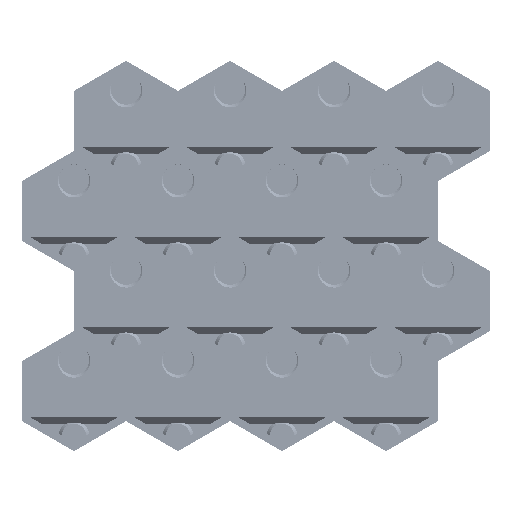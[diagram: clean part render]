
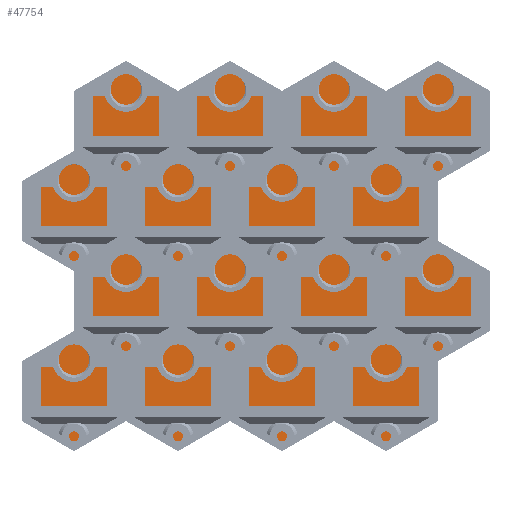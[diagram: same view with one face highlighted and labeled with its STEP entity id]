
A CAD part, left-side view. The second image highlights one B-rep face of the part: STEP entity #47754.
In plain terms, the highlighted planar face has unit normal (-1, 0, 0).
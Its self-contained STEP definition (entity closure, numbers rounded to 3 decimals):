
#1348=PLANE('',#50601);
#3409=FACE_OUTER_BOUND('',#6126,.T.);
#6126=EDGE_LOOP('',(#36761,#36762,#36763,#36764,#36765,#36766,#36767,#36768,
#36769,#36770,#36771,#36772,#36773,#36774,#36775,#36776,#36777,#36778,#36779,
#36780,#36781,#36782,#36783,#36784,#36785,#36786,#36787,#36788,#36789,#36790));
#11603=LINE('',#88824,#16742);
#11607=LINE('',#88832,#16746);
#11610=LINE('',#88838,#16749);
#11613=LINE('',#88844,#16752);
#11616=LINE('',#88850,#16755);
#11619=LINE('',#88856,#16758);
#11622=LINE('',#88862,#16761);
#11625=LINE('',#88868,#16764);
#11628=LINE('',#88874,#16767);
#11631=LINE('',#88880,#16770);
#11634=LINE('',#88886,#16773);
#11637=LINE('',#88892,#16776);
#11640=LINE('',#88898,#16779);
#11643=LINE('',#88904,#16782);
#11646=LINE('',#88910,#16785);
#11649=LINE('',#88916,#16788);
#11653=LINE('',#88924,#16792);
#11656=LINE('',#88930,#16795);
#11659=LINE('',#88936,#16798);
#11662=LINE('',#88942,#16801);
#11665=LINE('',#88948,#16804);
#11668=LINE('',#88954,#16807);
#11671=LINE('',#88960,#16810);
#11674=LINE('',#88966,#16813);
#11677=LINE('',#88972,#16816);
#11680=LINE('',#88978,#16819);
#11683=LINE('',#88984,#16822);
#11686=LINE('',#88990,#16825);
#11689=LINE('',#88996,#16828);
#11692=LINE('',#89000,#16831);
#16742=VECTOR('',#56576,10.);
#16746=VECTOR('',#56582,10.);
#16749=VECTOR('',#56587,10.);
#16752=VECTOR('',#56592,10.);
#16755=VECTOR('',#56597,10.);
#16758=VECTOR('',#56602,10.);
#16761=VECTOR('',#56607,10.);
#16764=VECTOR('',#56612,10.);
#16767=VECTOR('',#56617,10.);
#16770=VECTOR('',#56622,10.);
#16773=VECTOR('',#56627,10.);
#16776=VECTOR('',#56632,10.);
#16779=VECTOR('',#56637,10.);
#16782=VECTOR('',#56642,10.);
#16785=VECTOR('',#56647,10.);
#16788=VECTOR('',#56652,10.);
#16792=VECTOR('',#56658,10.);
#16795=VECTOR('',#56663,10.);
#16798=VECTOR('',#56668,10.);
#16801=VECTOR('',#56673,10.);
#16804=VECTOR('',#56678,10.);
#16807=VECTOR('',#56683,10.);
#16810=VECTOR('',#56688,10.);
#16813=VECTOR('',#56693,10.);
#16816=VECTOR('',#56698,10.);
#16819=VECTOR('',#56703,10.);
#16822=VECTOR('',#56708,10.);
#16825=VECTOR('',#56713,10.);
#16828=VECTOR('',#56718,10.);
#16831=VECTOR('',#56723,10.);
#21724=VERTEX_POINT('',#88822);
#21725=VERTEX_POINT('',#88823);
#21728=VERTEX_POINT('',#88831);
#21730=VERTEX_POINT('',#88837);
#21732=VERTEX_POINT('',#88843);
#21734=VERTEX_POINT('',#88849);
#21736=VERTEX_POINT('',#88855);
#21738=VERTEX_POINT('',#88861);
#21740=VERTEX_POINT('',#88867);
#21742=VERTEX_POINT('',#88873);
#21744=VERTEX_POINT('',#88879);
#21746=VERTEX_POINT('',#88885);
#21748=VERTEX_POINT('',#88891);
#21750=VERTEX_POINT('',#88897);
#21752=VERTEX_POINT('',#88903);
#21754=VERTEX_POINT('',#88909);
#21756=VERTEX_POINT('',#88915);
#21759=VERTEX_POINT('',#88923);
#21761=VERTEX_POINT('',#88929);
#21763=VERTEX_POINT('',#88935);
#21765=VERTEX_POINT('',#88941);
#21767=VERTEX_POINT('',#88947);
#21769=VERTEX_POINT('',#88953);
#21771=VERTEX_POINT('',#88959);
#21773=VERTEX_POINT('',#88965);
#21775=VERTEX_POINT('',#88971);
#21777=VERTEX_POINT('',#88977);
#21779=VERTEX_POINT('',#88983);
#21781=VERTEX_POINT('',#88989);
#21783=VERTEX_POINT('',#88995);
#27161=EDGE_CURVE('',#21724,#21725,#11603,.T.);
#27165=EDGE_CURVE('',#21725,#21728,#11607,.T.);
#27168=EDGE_CURVE('',#21728,#21730,#11610,.T.);
#27171=EDGE_CURVE('',#21730,#21732,#11613,.T.);
#27174=EDGE_CURVE('',#21732,#21734,#11616,.T.);
#27177=EDGE_CURVE('',#21734,#21736,#11619,.T.);
#27180=EDGE_CURVE('',#21736,#21738,#11622,.T.);
#27183=EDGE_CURVE('',#21738,#21740,#11625,.T.);
#27186=EDGE_CURVE('',#21740,#21742,#11628,.T.);
#27189=EDGE_CURVE('',#21742,#21744,#11631,.T.);
#27192=EDGE_CURVE('',#21744,#21746,#11634,.T.);
#27195=EDGE_CURVE('',#21746,#21748,#11637,.T.);
#27198=EDGE_CURVE('',#21748,#21750,#11640,.T.);
#27201=EDGE_CURVE('',#21750,#21752,#11643,.T.);
#27204=EDGE_CURVE('',#21752,#21754,#11646,.T.);
#27207=EDGE_CURVE('',#21754,#21756,#11649,.T.);
#27211=EDGE_CURVE('',#21756,#21759,#11653,.T.);
#27214=EDGE_CURVE('',#21759,#21761,#11656,.T.);
#27217=EDGE_CURVE('',#21761,#21763,#11659,.T.);
#27220=EDGE_CURVE('',#21763,#21765,#11662,.T.);
#27223=EDGE_CURVE('',#21765,#21767,#11665,.T.);
#27226=EDGE_CURVE('',#21767,#21769,#11668,.T.);
#27229=EDGE_CURVE('',#21769,#21771,#11671,.T.);
#27232=EDGE_CURVE('',#21771,#21773,#11674,.T.);
#27235=EDGE_CURVE('',#21773,#21775,#11677,.T.);
#27238=EDGE_CURVE('',#21775,#21777,#11680,.T.);
#27241=EDGE_CURVE('',#21777,#21779,#11683,.T.);
#27244=EDGE_CURVE('',#21779,#21781,#11686,.T.);
#27247=EDGE_CURVE('',#21781,#21783,#11689,.T.);
#27250=EDGE_CURVE('',#21783,#21724,#11692,.T.);
#36761=ORIENTED_EDGE('',*,*,#27161,.F.);
#36762=ORIENTED_EDGE('',*,*,#27250,.F.);
#36763=ORIENTED_EDGE('',*,*,#27247,.F.);
#36764=ORIENTED_EDGE('',*,*,#27244,.F.);
#36765=ORIENTED_EDGE('',*,*,#27241,.F.);
#36766=ORIENTED_EDGE('',*,*,#27238,.F.);
#36767=ORIENTED_EDGE('',*,*,#27235,.F.);
#36768=ORIENTED_EDGE('',*,*,#27232,.F.);
#36769=ORIENTED_EDGE('',*,*,#27229,.F.);
#36770=ORIENTED_EDGE('',*,*,#27226,.F.);
#36771=ORIENTED_EDGE('',*,*,#27223,.F.);
#36772=ORIENTED_EDGE('',*,*,#27220,.F.);
#36773=ORIENTED_EDGE('',*,*,#27217,.F.);
#36774=ORIENTED_EDGE('',*,*,#27214,.F.);
#36775=ORIENTED_EDGE('',*,*,#27211,.F.);
#36776=ORIENTED_EDGE('',*,*,#27207,.F.);
#36777=ORIENTED_EDGE('',*,*,#27204,.F.);
#36778=ORIENTED_EDGE('',*,*,#27201,.F.);
#36779=ORIENTED_EDGE('',*,*,#27198,.F.);
#36780=ORIENTED_EDGE('',*,*,#27195,.F.);
#36781=ORIENTED_EDGE('',*,*,#27192,.F.);
#36782=ORIENTED_EDGE('',*,*,#27189,.F.);
#36783=ORIENTED_EDGE('',*,*,#27186,.F.);
#36784=ORIENTED_EDGE('',*,*,#27183,.F.);
#36785=ORIENTED_EDGE('',*,*,#27180,.F.);
#36786=ORIENTED_EDGE('',*,*,#27177,.F.);
#36787=ORIENTED_EDGE('',*,*,#27174,.F.);
#36788=ORIENTED_EDGE('',*,*,#27171,.F.);
#36789=ORIENTED_EDGE('',*,*,#27168,.F.);
#36790=ORIENTED_EDGE('',*,*,#27165,.F.);
#47754=ADVANCED_FACE('',(#3409),#1348,.T.);
#50601=AXIS2_PLACEMENT_3D('',#89001,#56724,#56725);
#56576=DIRECTION('',(0.,0.,-1.));
#56582=DIRECTION('',(0.,0.866,-0.5));
#56587=DIRECTION('',(0.,0.,-1.));
#56592=DIRECTION('',(0.,-0.866,-0.5));
#56597=DIRECTION('',(0.,0.,-1.));
#56602=DIRECTION('',(0.,0.866,-0.5));
#56607=DIRECTION('',(0.,0.,-1.));
#56612=DIRECTION('',(0.,0.866,-0.5));
#56617=DIRECTION('',(0.,0.866,0.5));
#56622=DIRECTION('',(0.,0.866,-0.5));
#56627=DIRECTION('',(0.,0.866,0.5));
#56632=DIRECTION('',(0.,0.866,-0.5));
#56637=DIRECTION('',(0.,0.866,0.5));
#56642=DIRECTION('',(0.,0.866,-0.5));
#56647=DIRECTION('',(0.,0.866,0.5));
#56652=DIRECTION('',(0.,0.,1.));
#56658=DIRECTION('',(0.,-0.866,0.5));
#56663=DIRECTION('',(0.,0.,1.));
#56668=DIRECTION('',(0.,0.866,0.5));
#56673=DIRECTION('',(0.,0.,1.));
#56678=DIRECTION('',(0.,-0.866,0.5));
#56683=DIRECTION('',(0.,0.,1.));
#56688=DIRECTION('',(0.,-0.866,0.5));
#56693=DIRECTION('',(0.,-0.866,-0.5));
#56698=DIRECTION('',(0.,-0.866,0.5));
#56703=DIRECTION('',(0.,-0.866,-0.5));
#56708=DIRECTION('',(0.,-0.866,0.5));
#56713=DIRECTION('',(0.,-0.866,-0.5));
#56718=DIRECTION('',(0.,-0.866,0.5));
#56723=DIRECTION('',(0.,-0.866,-0.5));
#56724=DIRECTION('center_axis',(-1.,0.,0.));
#56725=DIRECTION('ref_axis',(0.,0.,1.));
#88822=CARTESIAN_POINT('',(0.,-62.6,157.385));
#88823=CARTESIAN_POINT('',(0.,-62.6,133.599));
#88824=CARTESIAN_POINT('',(0.,-62.6,112.15));
#88831=CARTESIAN_POINT('',(0.,-41.6,121.474));
#88832=CARTESIAN_POINT('',(0.,-7.675,101.888));
#88837=CARTESIAN_POINT('',(0.,-41.6,96.764));
#88838=CARTESIAN_POINT('',(0.,-41.6,93.964));
#88843=CARTESIAN_POINT('',(0.,-62.6,84.639));
#88844=CARTESIAN_POINT('',(0.,-26.05,105.742));
#88849=CARTESIAN_POINT('',(0.,-62.6,60.853));
#88850=CARTESIAN_POINT('',(0.,-62.6,75.777));
#88855=CARTESIAN_POINT('',(0.,-41.6,48.728));
#88856=CARTESIAN_POINT('',(0.,-23.425,38.235));
#88861=CARTESIAN_POINT('',(0.,-41.6,24.48));
#88862=CARTESIAN_POINT('',(0.,-41.6,57.591));
#88867=CARTESIAN_POINT('',(0.,-21.,12.586));
#88868=CARTESIAN_POINT('',(0.,-18.175,10.955));
#88873=CARTESIAN_POINT('',(0.,0.,24.711));
#88874=CARTESIAN_POINT('',(0.,26.05,39.751));
#88879=CARTESIAN_POINT('',(0.,21.,12.586));
#88880=CARTESIAN_POINT('',(0.,8.075,20.048));
#88885=CARTESIAN_POINT('',(0.,42.,24.711));
#88886=CARTESIAN_POINT('',(0.,52.3,30.657));
#88891=CARTESIAN_POINT('',(0.,63.,12.586));
#88892=CARTESIAN_POINT('',(0.,34.325,29.142));
#88897=CARTESIAN_POINT('',(0.,84.,24.711));
#88898=CARTESIAN_POINT('',(0.,78.55,21.564));
#88903=CARTESIAN_POINT('',(0.,105.,12.586));
#88904=CARTESIAN_POINT('',(0.,60.575,38.235));
#88909=CARTESIAN_POINT('',(0.,125.6,24.48));
#88910=CARTESIAN_POINT('',(0.,104.8,12.471));
#88915=CARTESIAN_POINT('',(0.,125.6,48.266));
#88916=CARTESIAN_POINT('',(0.,125.6,69.715));
#88923=CARTESIAN_POINT('',(0.,104.6,60.391));
#88924=CARTESIAN_POINT('',(0.,70.675,79.977));
#88929=CARTESIAN_POINT('',(0.,104.6,85.101));
#88930=CARTESIAN_POINT('',(0.,104.6,87.901));
#88935=CARTESIAN_POINT('',(0.,125.6,97.226));
#88936=CARTESIAN_POINT('',(0.,89.05,76.124));
#88941=CARTESIAN_POINT('',(0.,125.6,121.012));
#88942=CARTESIAN_POINT('',(0.,125.6,106.088));
#88947=CARTESIAN_POINT('',(0.,104.6,133.137));
#88948=CARTESIAN_POINT('',(0.,86.425,143.63));
#88953=CARTESIAN_POINT('',(0.,104.6,157.385));
#88954=CARTESIAN_POINT('',(0.,104.6,124.274));
#88959=CARTESIAN_POINT('',(0.,84.,169.279));
#88960=CARTESIAN_POINT('',(0.,81.175,170.91));
#88965=CARTESIAN_POINT('',(0.,63.,157.155));
#88966=CARTESIAN_POINT('',(0.,36.95,142.115));
#88971=CARTESIAN_POINT('',(0.,42.,169.279));
#88972=CARTESIAN_POINT('',(0.,54.925,161.817));
#88977=CARTESIAN_POINT('',(0.,21.,157.155));
#88978=CARTESIAN_POINT('',(0.,10.7,151.208));
#88983=CARTESIAN_POINT('',(0.,0.,169.279));
#88984=CARTESIAN_POINT('',(0.,28.675,152.723));
#88989=CARTESIAN_POINT('',(0.,-21.,157.155));
#88990=CARTESIAN_POINT('',(0.,-15.55,160.301));
#88995=CARTESIAN_POINT('',(0.,-42.,169.279));
#88996=CARTESIAN_POINT('',(0.,2.425,143.63));
#89000=CARTESIAN_POINT('',(0.,-41.8,169.394));
#89001=CARTESIAN_POINT('Origin',(0.,31.5,90.933));
